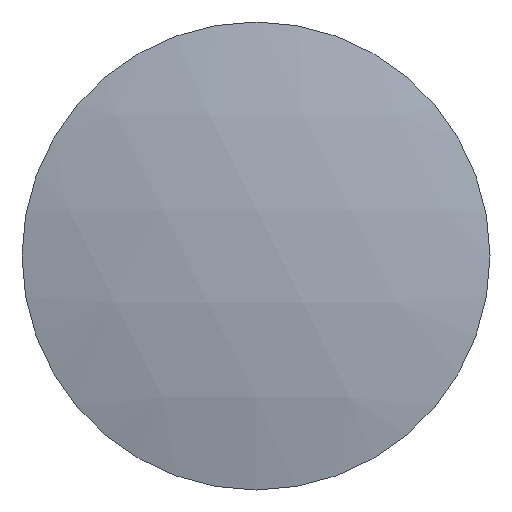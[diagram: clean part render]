
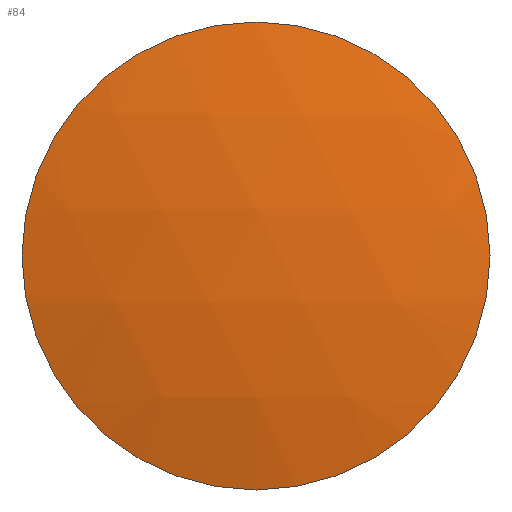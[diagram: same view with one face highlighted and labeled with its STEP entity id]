
A CAD part, front view. The second image highlights one B-rep face of the part: STEP entity #84.
In plain terms, the highlighted spherical face has radius 51.9 mm.
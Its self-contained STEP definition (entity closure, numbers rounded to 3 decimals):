
#68=CARTESIAN_POINT('',(0.0,46.8,0.0));
#69=DIRECTION('',(0.0,0.0,1.0));
#70=DIRECTION('',(1.0,0.0,0.0));
#71=AXIS2_PLACEMENT_3D('',#68,#69,#70);
#72=SPHERICAL_SURFACE('',#71,51.9);
#73=CARTESIAN_POINT('',(-12.5,-3.572,0.0));
#74=VERTEX_POINT('',#73);
#75=CARTESIAN_POINT('',(0.0,-3.572,0.0));
#76=DIRECTION('',(0.0,1.0,0.0));
#77=DIRECTION('',(-1.0,0.0,0.0));
#78=AXIS2_PLACEMENT_3D('',#75,#76,#77);
#79=CIRCLE('',#78,12.5);
#80=EDGE_CURVE('',#74,#74,#79,.T.);
#81=ORIENTED_EDGE('',*,*,#80,.F.);
#82=EDGE_LOOP('',(#81));
#83=FACE_OUTER_BOUND('',#82,.T.);
#84=ADVANCED_FACE('',(#83),#72,.T.);
